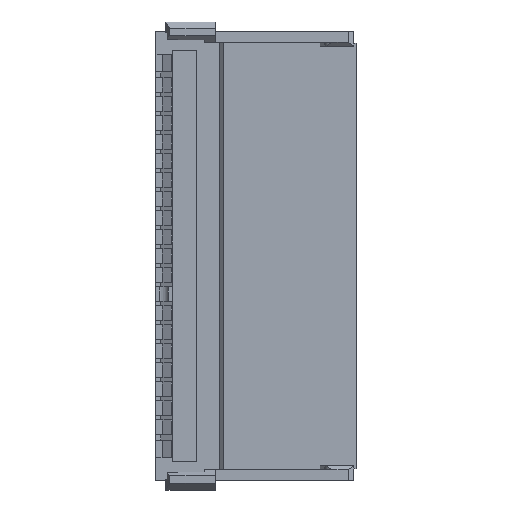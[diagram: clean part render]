
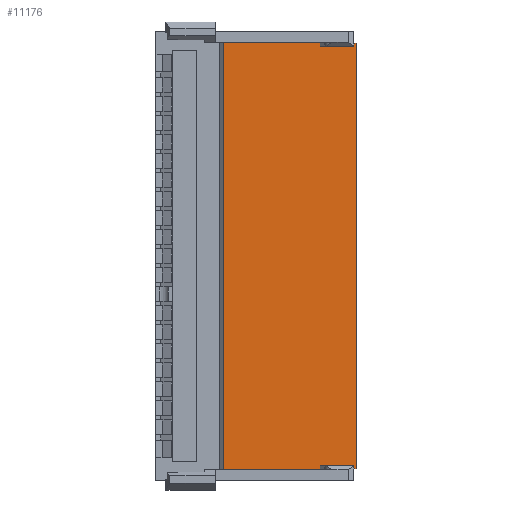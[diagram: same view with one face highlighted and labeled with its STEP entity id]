
A CAD part, top view. The second image highlights one B-rep face of the part: STEP entity #11176.
In plain terms, the highlighted planar face has unit normal (0, 0, 1).
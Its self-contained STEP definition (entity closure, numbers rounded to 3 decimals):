
#11132=AXIS2_PLACEMENT_3D('Plane Axis2P3D',#11129,#11130,#11131) ;
#7714=CARTESIAN_POINT('Vertex',(-1.5,-16.55,0.)) ;
#10476=CARTESIAN_POINT('Line Origine',(-10.5,1.592,0.)) ;
#10480=CARTESIAN_POINT('Vertex',(-10.5,16.85,0.)) ;
#10482=CARTESIAN_POINT('Vertex',(-10.5,-16.85,0.)) ;
#10511=CARTESIAN_POINT('Vertex',(-2.826,-16.85,0.)) ;
#10514=CARTESIAN_POINT('Line Origine',(-6.663,-16.85,0.)) ;
#10540=CARTESIAN_POINT('Vertex',(-2.826,-16.55,0.)) ;
#10543=CARTESIAN_POINT('Line Origine',(-2.826,-16.7,0.)) ;
#10565=CARTESIAN_POINT('Line Origine',(-2.163,-16.55,0.)) ;
#10590=CARTESIAN_POINT('Vertex',(-0.2,-16.55,0.)) ;
#10593=CARTESIAN_POINT('Line Origine',(-0.85,-16.55,0.)) ;
#10614=CARTESIAN_POINT('Vertex',(-0.2,-16.775,0.)) ;
#10617=CARTESIAN_POINT('Line Origine',(-0.2,-16.663,0.)) ;
#10644=CARTESIAN_POINT('Vertex',(0.,-16.775,0.)) ;
#10647=CARTESIAN_POINT('Line Origine',(-0.1,-16.775,0.)) ;
#10674=CARTESIAN_POINT('Line Origine',(-6.663,16.85,0.)) ;
#10678=CARTESIAN_POINT('Vertex',(-2.826,16.85,0.)) ;
#10773=CARTESIAN_POINT('Vertex',(0.,16.775,0.)) ;
#10776=CARTESIAN_POINT('Line Origine',(0.,0.,0.)) ;
#11063=CARTESIAN_POINT('Vertex',(-2.826,16.55,0.)) ;
#11073=CARTESIAN_POINT('Line Origine',(-2.826,16.7,0.)) ;
#11129=CARTESIAN_POINT('Axis2P3D Location',(-10.75,16.775,0.)) ;
#11134=CARTESIAN_POINT('Line Origine',(-0.1,16.775,0.)) ;
#11138=CARTESIAN_POINT('Vertex',(-0.2,16.775,0.)) ;
#11141=CARTESIAN_POINT('Line Origine',(-0.2,16.663,0.)) ;
#11145=CARTESIAN_POINT('Vertex',(-0.2,16.55,0.)) ;
#11148=CARTESIAN_POINT('Line Origine',(-0.85,16.55,0.)) ;
#11152=CARTESIAN_POINT('Vertex',(-1.5,16.55,0.)) ;
#11155=CARTESIAN_POINT('Line Origine',(-2.163,16.55,0.)) ;
#10477=DIRECTION('Vector Direction',(0.,-1.,0.)) ;
#10515=DIRECTION('Vector Direction',(-1.,0.,0.)) ;
#10544=DIRECTION('Vector Direction',(0.,-1.,0.)) ;
#10566=DIRECTION('Vector Direction',(-1.,0.,0.)) ;
#10594=DIRECTION('Vector Direction',(1.,0.,0.)) ;
#10618=DIRECTION('Vector Direction',(0.,1.,0.)) ;
#10648=DIRECTION('Vector Direction',(1.,0.,0.)) ;
#10675=DIRECTION('Vector Direction',(-1.,0.,0.)) ;
#10777=DIRECTION('Vector Direction',(0.,-1.,0.)) ;
#11074=DIRECTION('Vector Direction',(0.,-1.,0.)) ;
#11130=DIRECTION('Axis2P3D Direction',(-0.,0.,1.)) ;
#11131=DIRECTION('Axis2P3D XDirection',(1.,0.,0.)) ;
#11135=DIRECTION('Vector Direction',(1.,0.,0.)) ;
#11142=DIRECTION('Vector Direction',(0.,1.,0.)) ;
#11149=DIRECTION('Vector Direction',(1.,0.,0.)) ;
#11156=DIRECTION('Vector Direction',(-1.,0.,0.)) ;
#10478=VECTOR('Line Direction',#10477,1.) ;
#10516=VECTOR('Line Direction',#10515,1.) ;
#10545=VECTOR('Line Direction',#10544,1.) ;
#10567=VECTOR('Line Direction',#10566,1.) ;
#10595=VECTOR('Line Direction',#10594,1.) ;
#10619=VECTOR('Line Direction',#10618,1.) ;
#10649=VECTOR('Line Direction',#10648,1.) ;
#10676=VECTOR('Line Direction',#10675,1.) ;
#10778=VECTOR('Line Direction',#10777,1.) ;
#11075=VECTOR('Line Direction',#11074,1.) ;
#11136=VECTOR('Line Direction',#11135,1.) ;
#11143=VECTOR('Line Direction',#11142,1.) ;
#11150=VECTOR('Line Direction',#11149,1.) ;
#11157=VECTOR('Line Direction',#11156,1.) ;
#11161=ORIENTED_EDGE('',*,*,#10484,.T.) ;
#11162=ORIENTED_EDGE('',*,*,#10518,.F.) ;
#11163=ORIENTED_EDGE('',*,*,#10547,.F.) ;
#11164=ORIENTED_EDGE('',*,*,#10569,.F.) ;
#11165=ORIENTED_EDGE('',*,*,#10597,.T.) ;
#11166=ORIENTED_EDGE('',*,*,#10621,.F.) ;
#11167=ORIENTED_EDGE('',*,*,#10651,.T.) ;
#11168=ORIENTED_EDGE('',*,*,#10780,.F.) ;
#11169=ORIENTED_EDGE('',*,*,#11140,.F.) ;
#11170=ORIENTED_EDGE('',*,*,#11147,.F.) ;
#11171=ORIENTED_EDGE('',*,*,#11154,.F.) ;
#11172=ORIENTED_EDGE('',*,*,#11159,.T.) ;
#11173=ORIENTED_EDGE('',*,*,#11077,.F.) ;
#11174=ORIENTED_EDGE('',*,*,#10680,.T.) ;
#11176=ADVANCED_FACE('LOWER \X2\306E7D50679C\X0\',(#11175),#11133,.T.) ;
#10484=EDGE_CURVE('',#10481,#10483,#10479,.T.) ;
#10518=EDGE_CURVE('',#10512,#10483,#10517,.T.) ;
#10547=EDGE_CURVE('',#10541,#10512,#10546,.T.) ;
#10569=EDGE_CURVE('',#7715,#10541,#10568,.T.) ;
#10597=EDGE_CURVE('',#7715,#10591,#10596,.T.) ;
#10621=EDGE_CURVE('',#10615,#10591,#10620,.T.) ;
#10651=EDGE_CURVE('',#10615,#10645,#10650,.T.) ;
#10680=EDGE_CURVE('',#10679,#10481,#10677,.T.) ;
#10780=EDGE_CURVE('',#10774,#10645,#10779,.T.) ;
#11077=EDGE_CURVE('',#10679,#11064,#11076,.T.) ;
#11140=EDGE_CURVE('',#11139,#10774,#11137,.T.) ;
#11147=EDGE_CURVE('',#11146,#11139,#11144,.T.) ;
#11154=EDGE_CURVE('',#11153,#11146,#11151,.T.) ;
#11159=EDGE_CURVE('',#11153,#11064,#11158,.T.) ;
#11160=EDGE_LOOP('',(#11161,#11162,#11163,#11164,#11165,#11166,#11167,#11168,#11169,#11170,#11171,#11172,#11173,#11174)) ;
#11175=FACE_OUTER_BOUND('',#11160,.T.) ;
#10479=LINE('Line',#10476,#10478) ;
#10517=LINE('Line',#10514,#10516) ;
#10546=LINE('Line',#10543,#10545) ;
#10568=LINE('Line',#10565,#10567) ;
#10596=LINE('Line',#10593,#10595) ;
#10620=LINE('Line',#10617,#10619) ;
#10650=LINE('Line',#10647,#10649) ;
#10677=LINE('Line',#10674,#10676) ;
#10779=LINE('Line',#10776,#10778) ;
#11076=LINE('Line',#11073,#11075) ;
#11137=LINE('Line',#11134,#11136) ;
#11144=LINE('Line',#11141,#11143) ;
#11151=LINE('Line',#11148,#11150) ;
#11158=LINE('Line',#11155,#11157) ;
#11133=PLANE('',#11132) ;
#7715=VERTEX_POINT('',#7714) ;
#10481=VERTEX_POINT('',#10480) ;
#10483=VERTEX_POINT('',#10482) ;
#10512=VERTEX_POINT('',#10511) ;
#10541=VERTEX_POINT('',#10540) ;
#10591=VERTEX_POINT('',#10590) ;
#10615=VERTEX_POINT('',#10614) ;
#10645=VERTEX_POINT('',#10644) ;
#10679=VERTEX_POINT('',#10678) ;
#10774=VERTEX_POINT('',#10773) ;
#11064=VERTEX_POINT('',#11063) ;
#11139=VERTEX_POINT('',#11138) ;
#11146=VERTEX_POINT('',#11145) ;
#11153=VERTEX_POINT('',#11152) ;
